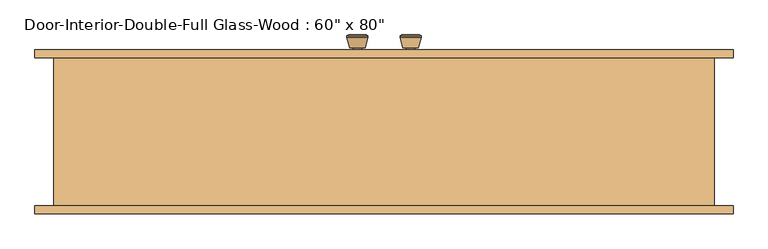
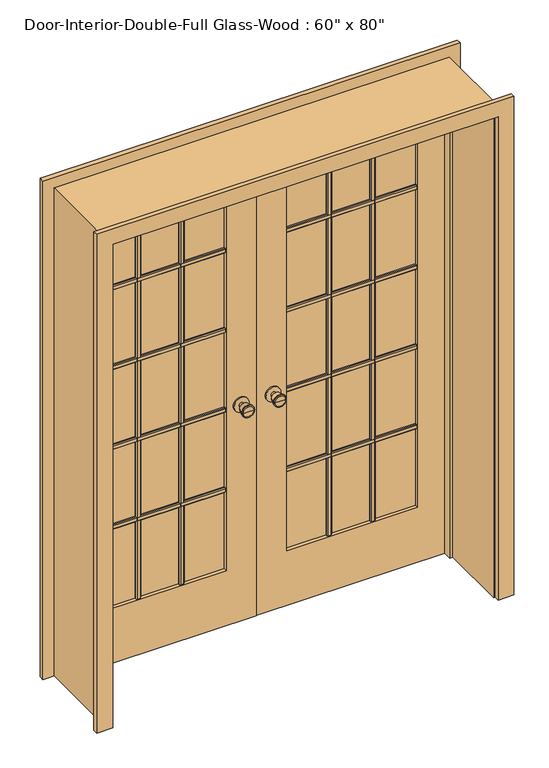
"""IFC4 building model written with IfcOpenShell, lengths in millimetres: door geometry."""

from ifc_helpers import new_model, si_unit, point, frame, frame_2d, origin, place, context, project, spatial, polyline, circle_curve, trimmed, segment, composite_curve, outline, extrude, faceted_brep, source, transform, mapped, element, save
from ifc_brep_helpers import plane_surface, cylinder_surface, revolved_surface, advanced_brep


def door_bfa3c7dc(model_context):
    return source(origin(), model_context, "Body", "SolidModel", [
        advanced_brep(
        [(-63.5, 179.0375, 914.4), (-73.5, 179.0375, 914.4), (-53.5, 179.0375, 914.4), (-83.9758676, 228.0375, 914.4), (-63.5, 228.0375, 914.4), (-43.0241324, 228.0375, 914.4), (-88.5, 226.2096319, 914.4), (-38.5, 226.2096319, 914.4), (-88.5, 222.7459537, 914.4), (-38.5, 222.7459537, 914.4), (-82.136236, 198.0375, 914.4), (-44.863764, 198.0375, 914.4), (-73.5, 198.0375, 914.4), (-53.5, 198.0375, 914.4)],
        [
            (0, 1),
            (1, 2, circle_curve(frame((-63.5, 179.0375, 914.4), z_axis=(0.0, -1.0, 0.0), x_axis=(1.0, 0.0, 0.0)), 10.0)),
            (2, 0),
            (2, 1, circle_curve(frame((-63.5, 179.0375, 914.4), z_axis=(0.0, -1.0, 0.0), x_axis=(1.0, 0.0, 0.0)), 10.0)),
            (3, 4),
            (4, 5),
            (5, 3, circle_curve(frame((-63.5, 228.0375, 914.4), z_axis=(0.0, 1.0, 0.0), x_axis=(1.0, 0.0, 0.0)), 20.4758676)),
            (3, 5, circle_curve(frame((-63.5, 228.0375, 914.4), z_axis=(0.0, 1.0, 0.0), x_axis=(1.0, 0.0, 0.0)), 20.4758676)),
            (6, 3),
            (5, 7),
            (7, 6, circle_curve(frame((-63.5, 226.2096319, 914.4), z_axis=(0.0, 1.0, 0.0), x_axis=(1.0, 0.0, 0.0)), 25.0)),
            (6, 7, circle_curve(frame((-63.5, 226.2096319, 914.4), z_axis=(0.0, 1.0, 0.0), x_axis=(1.0, 0.0, 0.0)), 25.0)),
            (8, 6),
            (7, 9),
            (9, 8, circle_curve(frame((-63.5, 222.7459537, 914.4), z_axis=(0.0, 1.0, 0.0), x_axis=(1.0, 0.0, 0.0)), 25.0)),
            (8, 9, circle_curve(frame((-63.5, 222.7459537, 914.4), z_axis=(0.0, 1.0, 0.0), x_axis=(1.0, 0.0, 0.0)), 25.0)),
            (10, 8),
            (9, 11),
            (11, 10, circle_curve(frame((-63.5, 198.0375, 914.4), z_axis=(0.0, 1.0, 0.0), x_axis=(1.0, 0.0, 0.0)), 18.636236)),
            (10, 11, circle_curve(frame((-63.5, 198.0375, 914.4), z_axis=(0.0, 1.0, 0.0), x_axis=(1.0, 0.0, 0.0)), 18.636236)),
            (12, 10),
            (11, 13),
            (13, 12, circle_curve(frame((-63.5, 198.0375, 914.4), z_axis=(0.0, 1.0, 0.0), x_axis=(1.0, 0.0, 0.0)), 10.0)),
            (12, 13, circle_curve(frame((-63.5, 198.0375, 914.4), z_axis=(0.0, 1.0, 0.0), x_axis=(1.0, 0.0, 0.0)), 10.0)),
            (1, 12),
            (13, 2),
        ],
        [
            plane_surface(frame((-63.5, 179.0375, 914.4), z_axis=(0.0, -1.0, 0.0), x_axis=(1.0, 0.0, 0.0))),
            plane_surface(frame((-63.5, 228.0375, 914.4), z_axis=(0.0, 1.0, 0.0), x_axis=(1.0, 0.0, 0.0))),
            revolved_surface(polyline([(-43.0241324, 228.0375, 914.4), (-38.5, 226.2096319, 914.4)]), (-63.5, 179.0375, 914.4), (0.0, -1.0, 0.0)),
            cylinder_surface(frame((-63.5, 179.0375, 914.4), z_axis=(0.0, -1.0, 0.0), x_axis=(1.0, 0.0, 0.0)), 25.0),
            revolved_surface(polyline([(-38.5, 222.7459537, 914.4), (-44.863764, 198.0375, 914.4)]), (-63.5, 179.0375, 914.4), (0.0, -1.0, 0.0)),
            plane_surface(frame((-63.5, 198.0375, 914.4), z_axis=(0.0, -1.0, 0.0), x_axis=(1.0, 0.0, 0.0))),
            cylinder_surface(frame((-63.5, 179.0375, 914.4), z_axis=(0.0, -1.0, 0.0), x_axis=(1.0, 0.0, 0.0)), 10.0),
        ],
        [
            (0, [[1, 2, 3]]),
            (0, [[-3, 4, -1]]),
            (1, [[5, 6, 7]]),
            (1, [[-6, -5, 8]]),
            (2, [[9, -7, 10, 11]]),
            (2, [[-10, -8, -9, 12]]),
            (3, [[13, -11, 14, 15]]),
            (3, [[-14, -12, -13, 16]]),
            (4, [[17, -15, 18, 19]]),
            (4, [[-18, -16, -17, 20]]),
            (5, [[21, -19, 22, 23]]),
            (5, [[-22, -20, -21, 24]]),
            (6, [[25, -23, 26, -2]]),
            (6, [[-26, -24, -25, -4]]),
        ],
    ),
        extrude(outline(composite_curve([segment(trimmed(circle_curve(frame_2d((914.4, -63.5)), 30.0), [point((914.4, -33.5))], [point((914.4, -93.5))], False, "CARTESIAN"), True, "CONTINUOUS"), segment(trimmed(circle_curve(frame_2d((914.4, -63.5)), 30.0), [point((914.4, -93.5))], [point((914.4, -33.5))], False, "CARTESIAN"), True, "CONTINUOUS")], self_intersect=False)), frame((0.0, 173.0375, 0.0), z_axis=(0.0, 1.0, 0.0), x_axis=(0.0, 0.0, 1.0)), (0.0, 0.0, 1.0), 6.0),
        advanced_brep(
        [(-63.5, 132.1125, 914.4), (-53.5, 132.1125, 914.4), (-73.5, 132.1125, 914.4), (-83.9758676, 83.1125, 914.4), (-43.0241324, 83.1125, 914.4), (-63.5, 83.1125, 914.4), (-88.5, 84.9403681, 914.4), (-38.5, 84.9403681, 914.4), (-88.5, 88.4040463, 914.4), (-38.5, 88.4040463, 914.4), (-82.136236, 113.1125, 914.4), (-44.863764, 113.1125, 914.4), (-73.5, 113.1125, 914.4), (-53.5, 113.1125, 914.4)],
        [
            (0, 1),
            (1, 2, circle_curve(frame((-63.5, 132.1125, 914.4), z_axis=(0.0, 1.0, 0.0), x_axis=(1.0, 0.0, 0.0)), 10.0)),
            (2, 0),
            (2, 1, circle_curve(frame((-63.5, 132.1125, 914.4), z_axis=(0.0, 1.0, 0.0), x_axis=(1.0, 0.0, 0.0)), 10.0)),
            (3, 4, circle_curve(frame((-63.5, 83.1125, 914.4), z_axis=(0.0, -1.0, 0.0), x_axis=(1.0, 0.0, 0.0)), 20.4758676)),
            (4, 5),
            (5, 3),
            (4, 3, circle_curve(frame((-63.5, 83.1125, 914.4), z_axis=(0.0, -1.0, 0.0), x_axis=(1.0, 0.0, 0.0)), 20.4758676)),
            (6, 7, circle_curve(frame((-63.5, 84.9403681, 914.4), z_axis=(0.0, -1.0, 0.0), x_axis=(1.0, 0.0, 0.0)), 25.0)),
            (7, 4),
            (3, 6),
            (7, 6, circle_curve(frame((-63.5, 84.9403681, 914.4), z_axis=(0.0, -1.0, 0.0), x_axis=(1.0, 0.0, 0.0)), 25.0)),
            (8, 9, circle_curve(frame((-63.5, 88.4040463, 914.4), z_axis=(0.0, -1.0, 0.0), x_axis=(1.0, 0.0, 0.0)), 25.0)),
            (9, 7),
            (6, 8),
            (9, 8, circle_curve(frame((-63.5, 88.4040463, 914.4), z_axis=(0.0, -1.0, 0.0), x_axis=(1.0, 0.0, 0.0)), 25.0)),
            (10, 11, circle_curve(frame((-63.5, 113.1125, 914.4), z_axis=(0.0, -1.0, 0.0), x_axis=(1.0, 0.0, 0.0)), 18.636236)),
            (11, 9),
            (8, 10),
            (11, 10, circle_curve(frame((-63.5, 113.1125, 914.4), z_axis=(0.0, -1.0, 0.0), x_axis=(1.0, 0.0, 0.0)), 18.636236)),
            (12, 13, circle_curve(frame((-63.5, 113.1125, 914.4), z_axis=(0.0, -1.0, 0.0), x_axis=(1.0, 0.0, 0.0)), 10.0)),
            (13, 11),
            (10, 12),
            (13, 12, circle_curve(frame((-63.5, 113.1125, 914.4), z_axis=(0.0, -1.0, 0.0), x_axis=(1.0, 0.0, 0.0)), 10.0)),
            (1, 13),
            (12, 2),
        ],
        [
            plane_surface(frame((-63.5, 132.1125, 914.4), z_axis=(0.0, 1.0, 0.0), x_axis=(1.0, 0.0, 0.0))),
            plane_surface(frame((-63.5, 83.1125, 914.4), z_axis=(0.0, -1.0, 0.0), x_axis=(1.0, 0.0, 0.0))),
            revolved_surface(polyline([(-43.0241324, 83.1125, 914.4), (-38.5, 84.9403681, 914.4)]), (-63.5, 132.1125, 914.4), (0.0, 1.0, 0.0)),
            cylinder_surface(frame((-63.5, 132.1125, 914.4), z_axis=(0.0, 1.0, 0.0), x_axis=(1.0, 0.0, 0.0)), 25.0),
            revolved_surface(polyline([(-38.5, 88.4040463, 914.4), (-44.863764, 113.1125, 914.4)]), (-63.5, 132.1125, 914.4), (0.0, 1.0, 0.0)),
            plane_surface(frame((-63.5, 113.1125, 914.4), z_axis=(0.0, 1.0, 0.0), x_axis=(1.0, 0.0, 0.0))),
            cylinder_surface(frame((-63.5, 132.1125, 914.4), z_axis=(0.0, 1.0, 0.0), x_axis=(1.0, 0.0, 0.0)), 10.0),
        ],
        [
            (0, [[1, 2, 3]]),
            (0, [[-3, 4, -1]]),
            (1, [[5, 6, 7]]),
            (1, [[8, -7, -6]]),
            (2, [[9, 10, -5, 11]]),
            (2, [[12, -11, -8, -10]]),
            (3, [[13, 14, -9, 15]]),
            (3, [[16, -15, -12, -14]]),
            (4, [[17, 18, -13, 19]]),
            (4, [[20, -19, -16, -18]]),
            (5, [[21, 22, -17, 23]]),
            (5, [[24, -23, -20, -22]]),
            (6, [[-2, 25, -21, 26]]),
            (6, [[-4, -26, -24, -25]]),
        ],
    ),
        extrude(outline(composite_curve([segment(trimmed(circle_curve(frame_2d((914.4, -63.5)), 30.0), [point((914.4, -33.5))], [point((914.4, -93.5))], False, "CARTESIAN"), True, "CONTINUOUS"), segment(trimmed(circle_curve(frame_2d((914.4, -63.5)), 30.0), [point((914.4, -93.5))], [point((914.4, -33.5))], False, "CARTESIAN"), True, "CONTINUOUS")], self_intersect=False)), frame((0.0, 132.1125, 0.0), z_axis=(0.0, 1.0, 0.0), x_axis=(0.0, 0.0, 1.0)), (0.0, 0.0, 1.0), 6.0),
        extrude(outline(polyline([(152.0825, 1586.23), (152.0825, 1567.18), (145.7325, 1567.18), (142.5575, 1570.355), (142.5575, 1583.055), (145.7325, 1586.23), (152.0825, 1586.23)])), frame((120.65, 0.0, 0.0), z_axis=(1.0, 0.0, 0.0), x_axis=(0.0, 1.0, 0.0)), (0.0, 0.0, 1.0), 520.7),
        extrude(outline(polyline([(152.0825, 1249.9975), (152.0825, 1230.9475), (145.7325, 1230.9475), (142.5575, 1234.1225), (142.5575, 1246.8225), (145.7325, 1249.9975), (152.0825, 1249.9975)])), frame((120.65, 0.0, 0.0), z_axis=(1.0, 0.0, 0.0), x_axis=(0.0, 1.0, 0.0)), (0.0, 0.0, 1.0), 520.7),
        extrude(outline(polyline([(152.0825, 913.765), (152.0825, 894.715), (145.7325, 894.715), (142.5575, 897.89), (142.5575, 910.59), (145.7325, 913.765), (152.0825, 913.765)])), frame((120.65, 0.0, 0.0), z_axis=(1.0, 0.0, 0.0), x_axis=(0.0, 1.0, 0.0)), (0.0, 0.0, 1.0), 520.7),
        extrude(outline(polyline([(152.0825, 577.5325), (152.0825, 558.4825), (145.7325, 558.4825), (142.5575, 561.6575), (142.5575, 574.3575), (145.7325, 577.5325), (152.0825, 577.5325)])), frame((120.65, 0.0, 0.0), z_axis=(1.0, 0.0, 0.0), x_axis=(0.0, 1.0, 0.0)), (0.0, 0.0, 1.0), 520.7),
        extrude(outline(polyline([(458.2583333, 152.0825), (477.3083333, 152.0825), (477.3083333, 145.7325), (474.1333333, 142.5575), (461.4333333, 142.5575), (458.2583333, 145.7325), (458.2583333, 152.0825)])), frame((0.0, 0.0, 231.775), z_axis=(0.0, 0.0, 1.0), x_axis=(1.0, 0.0, 0.0)), (0.0, 0.0, 1.0), 1681.1625),
        extrude(outline(polyline([(284.6916667, 152.0825), (303.7416667, 152.0825), (303.7416667, 145.7325), (300.5666667, 142.5575), (287.8666667, 142.5575), (284.6916667, 145.7325), (284.6916667, 152.0825)])), frame((0.0, 0.0, 231.775), z_axis=(0.0, 0.0, 1.0), x_axis=(1.0, 0.0, 0.0)), (0.0, 0.0, 1.0), 1681.1625),
        extrude(outline(polyline([(159.0675, 1586.23), (165.4175, 1586.23), (168.5925, 1583.055), (168.5925, 1570.355), (165.4175, 1567.18), (159.0675, 1567.18), (159.0675, 1586.23)])), frame((-641.35, 0.0, 0.0), z_axis=(1.0, 0.0, 0.0), x_axis=(0.0, 1.0, 0.0)), (0.0, 0.0, 1.0), 520.7),
        extrude(outline(polyline([(159.0675, 1249.9975), (165.4175, 1249.9975), (168.5925, 1246.8225), (168.5925, 1234.1225), (165.4175, 1230.9475), (159.0675, 1230.9475), (159.0675, 1249.9975)])), frame((-641.35, 0.0, 0.0), z_axis=(1.0, 0.0, 0.0), x_axis=(0.0, 1.0, 0.0)), (0.0, 0.0, 1.0), 520.7),
        extrude(outline(polyline([(159.0675, 913.765), (165.4175, 913.765), (168.5925, 910.59), (168.5925, 897.89), (165.4175, 894.715), (159.0675, 894.715), (159.0675, 913.765)])), frame((-641.35, 0.0, 0.0), z_axis=(1.0, 0.0, 0.0), x_axis=(0.0, 1.0, 0.0)), (0.0, 0.0, 1.0), 520.7),
        extrude(outline(polyline([(159.0675, 577.5325), (165.4175, 577.5325), (168.5925, 574.3575), (168.5925, 561.6575), (165.4175, 558.4825), (159.0675, 558.4825), (159.0675, 577.5325)])), frame((-641.35, 0.0, 0.0), z_axis=(1.0, 0.0, 0.0), x_axis=(0.0, 1.0, 0.0)), (0.0, 0.0, 1.0), 520.7),
        extrude(outline(polyline([(-303.7416667, 159.0675), (-303.7416667, 165.4175), (-300.5666667, 168.5925), (-287.8666667, 168.5925), (-284.6916667, 165.4175), (-284.6916667, 159.0675), (-303.7416667, 159.0675)])), frame((0.0, 0.0, 231.775), z_axis=(0.0, 0.0, 1.0), x_axis=(1.0, 0.0, 0.0)), (0.0, 0.0, 1.0), 1681.1625),
        extrude(outline(polyline([(-477.3083333, 159.0675), (-477.3083333, 165.4175), (-474.1333333, 168.5925), (-461.4333333, 168.5925), (-458.2583333, 165.4175), (-458.2583333, 159.0675), (-477.3083333, 159.0675)])), frame((0.0, 0.0, 231.775), z_axis=(0.0, 0.0, 1.0), x_axis=(1.0, 0.0, 0.0)), (0.0, 0.0, 1.0), 1681.1625),
        extrude(outline(polyline([(159.0675, 1586.23), (165.4175, 1586.23), (168.5925, 1583.055), (168.5925, 1570.355), (165.4175, 1567.18), (159.0675, 1567.18), (159.0675, 1586.23)])), frame((120.65, 0.0, 0.0), z_axis=(1.0, 0.0, 0.0), x_axis=(0.0, 1.0, 0.0)), (0.0, 0.0, 1.0), 520.7),
        extrude(outline(polyline([(159.0675, 1249.9975), (165.4175, 1249.9975), (168.5925, 1246.8225), (168.5925, 1234.1225), (165.4175, 1230.9475), (159.0675, 1230.9475), (159.0675, 1249.9975)])), frame((120.65, 0.0, 0.0), z_axis=(1.0, 0.0, 0.0), x_axis=(0.0, 1.0, 0.0)), (0.0, 0.0, 1.0), 520.7),
        extrude(outline(polyline([(159.0675, 913.765), (165.4175, 913.765), (168.5925, 910.59), (168.5925, 897.89), (165.4175, 894.715), (159.0675, 894.715), (159.0675, 913.765)])), frame((120.65, 0.0, 0.0), z_axis=(1.0, 0.0, 0.0), x_axis=(0.0, 1.0, 0.0)), (0.0, 0.0, 1.0), 520.7),
        extrude(outline(polyline([(159.0675, 577.5325), (165.4175, 577.5325), (168.5925, 574.3575), (168.5925, 561.6575), (165.4175, 558.4825), (159.0675, 558.4825), (159.0675, 577.5325)])), frame((120.65, 0.0, 0.0), z_axis=(1.0, 0.0, 0.0), x_axis=(0.0, 1.0, 0.0)), (0.0, 0.0, 1.0), 520.7),
        extrude(outline(polyline([(458.2583333, 159.0675), (458.2583333, 165.4175), (461.4333333, 168.5925), (474.1333333, 168.5925), (477.3083333, 165.4175), (477.3083333, 159.0675), (458.2583333, 159.0675)])), frame((0.0, 0.0, 231.775), z_axis=(0.0, 0.0, 1.0), x_axis=(1.0, 0.0, 0.0)), (0.0, 0.0, 1.0), 1681.1625),
        extrude(outline(polyline([(284.6916667, 159.0675), (284.6916667, 165.4175), (287.8666667, 168.5925), (300.5666667, 168.5925), (303.7416667, 165.4175), (303.7416667, 159.0675), (284.6916667, 159.0675)])), frame((0.0, 0.0, 231.775), z_axis=(0.0, 0.0, 1.0), x_axis=(1.0, 0.0, 0.0)), (0.0, 0.0, 1.0), 1681.1625),
        extrude(outline(polyline([(152.0825, 1586.23), (152.0825, 1567.18), (145.7325, 1567.18), (142.5575, 1570.355), (142.5575, 1583.055), (145.7325, 1586.23), (152.0825, 1586.23)])), frame((-641.35, 0.0, 0.0), z_axis=(1.0, 0.0, 0.0), x_axis=(0.0, 1.0, 0.0)), (0.0, 0.0, 1.0), 520.7),
        extrude(outline(polyline([(152.0825, 1249.9975), (152.0825, 1230.9475), (145.7325, 1230.9475), (142.5575, 1234.1225), (142.5575, 1246.8225), (145.7325, 1249.9975), (152.0825, 1249.9975)])), frame((-641.35, 0.0, 0.0), z_axis=(1.0, 0.0, 0.0), x_axis=(0.0, 1.0, 0.0)), (0.0, 0.0, 1.0), 520.7),
        extrude(outline(polyline([(152.0825, 913.765), (152.0825, 894.715), (145.7325, 894.715), (142.5575, 897.89), (142.5575, 910.59), (145.7325, 913.765), (152.0825, 913.765)])), frame((-641.35, 0.0, 0.0), z_axis=(1.0, 0.0, 0.0), x_axis=(0.0, 1.0, 0.0)), (0.0, 0.0, 1.0), 520.7),
        extrude(outline(polyline([(152.0825, 577.5325), (152.0825, 558.4825), (145.7325, 558.4825), (142.5575, 561.6575), (142.5575, 574.3575), (145.7325, 577.5325), (152.0825, 577.5325)])), frame((-641.35, 0.0, 0.0), z_axis=(1.0, 0.0, 0.0), x_axis=(0.0, 1.0, 0.0)), (0.0, 0.0, 1.0), 520.7),
        extrude(outline(polyline([(-303.7416667, 152.0825), (-284.6916667, 152.0825), (-284.6916667, 145.7325), (-287.8666667, 142.5575), (-300.5666667, 142.5575), (-303.7416667, 145.7325), (-303.7416667, 152.0825)])), frame((0.0, 0.0, 231.775), z_axis=(0.0, 0.0, 1.0), x_axis=(1.0, 0.0, 0.0)), (0.0, 0.0, 1.0), 1681.1625),
        extrude(outline(polyline([(-477.3083333, 152.0825), (-458.2583333, 152.0825), (-458.2583333, 145.7325), (-461.4333333, 142.5575), (-474.1333333, 142.5575), (-477.3083333, 145.7325), (-477.3083333, 152.0825)])), frame((0.0, 0.0, 231.775), z_axis=(0.0, 0.0, 1.0), x_axis=(1.0, 0.0, 0.0)), (0.0, 0.0, 1.0), 1681.1625),
        advanced_brep(
        [(63.5, 132.1125, 914.4), (73.5, 132.1125, 914.4), (53.5, 132.1125, 914.4), (83.9758676, 83.1125, 914.4), (63.5, 83.1125, 914.4), (43.0241324, 83.1125, 914.4), (88.5, 84.9403681, 914.4), (38.5, 84.9403681, 914.4), (88.5, 88.4040463, 914.4), (38.5, 88.4040463, 914.4), (82.136236, 113.1125, 914.4), (44.863764, 113.1125, 914.4), (73.5, 113.1125, 914.4), (53.5, 113.1125, 914.4)],
        [
            (0, 1),
            (1, 2, circle_curve(frame((63.5, 132.1125, 914.4), z_axis=(0.0, 1.0, 0.0), x_axis=(-1.0, 0.0, 0.0)), 10.0)),
            (2, 0),
            (2, 1, circle_curve(frame((63.5, 132.1125, 914.4), z_axis=(0.0, 1.0, 0.0), x_axis=(-1.0, 0.0, 0.0)), 10.0)),
            (3, 4),
            (4, 5),
            (5, 3, circle_curve(frame((63.5, 83.1125, 914.4), z_axis=(0.0, -1.0, 0.0), x_axis=(-1.0, 0.0, 0.0)), 20.4758676)),
            (3, 5, circle_curve(frame((63.5, 83.1125, 914.4), z_axis=(0.0, -1.0, 0.0), x_axis=(-1.0, 0.0, 0.0)), 20.4758676)),
            (6, 3),
            (5, 7),
            (7, 6, circle_curve(frame((63.5, 84.9403681, 914.4), z_axis=(0.0, -1.0, 0.0), x_axis=(-1.0, 0.0, 0.0)), 25.0)),
            (6, 7, circle_curve(frame((63.5, 84.9403681, 914.4), z_axis=(0.0, -1.0, 0.0), x_axis=(-1.0, 0.0, 0.0)), 25.0)),
            (8, 6),
            (7, 9),
            (9, 8, circle_curve(frame((63.5, 88.4040463, 914.4), z_axis=(0.0, -1.0, 0.0), x_axis=(-1.0, 0.0, 0.0)), 25.0)),
            (8, 9, circle_curve(frame((63.5, 88.4040463, 914.4), z_axis=(0.0, -1.0, 0.0), x_axis=(-1.0, 0.0, 0.0)), 25.0)),
            (10, 8),
            (9, 11),
            (11, 10, circle_curve(frame((63.5, 113.1125, 914.4), z_axis=(0.0, -1.0, 0.0), x_axis=(-1.0, 0.0, 0.0)), 18.636236)),
            (10, 11, circle_curve(frame((63.5, 113.1125, 914.4), z_axis=(0.0, -1.0, 0.0), x_axis=(-1.0, 0.0, 0.0)), 18.636236)),
            (12, 10),
            (11, 13),
            (13, 12, circle_curve(frame((63.5, 113.1125, 914.4), z_axis=(0.0, -1.0, 0.0), x_axis=(-1.0, 0.0, 0.0)), 10.0)),
            (12, 13, circle_curve(frame((63.5, 113.1125, 914.4), z_axis=(0.0, -1.0, 0.0), x_axis=(-1.0, 0.0, 0.0)), 10.0)),
            (1, 12),
            (13, 2),
        ],
        [
            plane_surface(frame((63.5, 132.1125, 914.4), z_axis=(0.0, 1.0, 0.0), x_axis=(-1.0, 0.0, 0.0))),
            plane_surface(frame((63.5, 83.1125, 914.4), z_axis=(0.0, -1.0, 0.0), x_axis=(-1.0, 0.0, 0.0))),
            revolved_surface(polyline([(43.0241324, 83.1125, 914.4), (38.5, 84.9403681, 914.4)]), (63.5, 132.1125, 914.4), (0.0, 1.0, 0.0)),
            cylinder_surface(frame((63.5, 132.1125, 914.4), z_axis=(0.0, 1.0, 0.0), x_axis=(-1.0, 0.0, 0.0)), 25.0),
            revolved_surface(polyline([(38.5, 88.4040463, 914.4), (44.863764, 113.1125, 914.4)]), (63.5, 132.1125, 914.4), (0.0, 1.0, 0.0)),
            plane_surface(frame((63.5, 113.1125, 914.4), z_axis=(0.0, 1.0, 0.0), x_axis=(-1.0, 0.0, 0.0))),
            cylinder_surface(frame((63.5, 132.1125, 914.4), z_axis=(0.0, 1.0, 0.0), x_axis=(-1.0, 0.0, 0.0)), 10.0),
        ],
        [
            (0, [[1, 2, 3]]),
            (0, [[-3, 4, -1]]),
            (1, [[5, 6, 7]]),
            (1, [[-6, -5, 8]]),
            (2, [[9, -7, 10, 11]]),
            (2, [[-10, -8, -9, 12]]),
            (3, [[13, -11, 14, 15]]),
            (3, [[-14, -12, -13, 16]]),
            (4, [[17, -15, 18, 19]]),
            (4, [[-18, -16, -17, 20]]),
            (5, [[21, -19, 22, 23]]),
            (5, [[-22, -20, -21, 24]]),
            (6, [[25, -23, 26, -2]]),
            (6, [[-26, -24, -25, -4]]),
        ],
    ),
        extrude(outline(composite_curve([segment(trimmed(circle_curve(frame_2d((914.4, 63.5)), 30.0), [point((914.4, 33.5))], [point((914.4, 93.5))], False, "CARTESIAN"), True, "CONTINUOUS"), segment(trimmed(circle_curve(frame_2d((914.4, 63.5)), 30.0), [point((914.4, 93.5))], [point((914.4, 33.5))], False, "CARTESIAN"), True, "CONTINUOUS")], self_intersect=False)), frame((0.0, 132.1125, 0.0), z_axis=(0.0, 1.0, 0.0), x_axis=(0.0, 0.0, 1.0)), (0.0, 0.0, 1.0), 6.0),
        advanced_brep(
        [(63.5, 179.0375, 914.4), (53.5, 179.0375, 914.4), (73.5, 179.0375, 914.4), (83.9758676, 228.0375, 914.4), (43.0241324, 228.0375, 914.4), (63.5, 228.0375, 914.4), (88.5, 226.2096319, 914.4), (38.5, 226.2096319, 914.4), (88.5, 222.7459537, 914.4), (38.5, 222.7459537, 914.4), (82.136236, 198.0375, 914.4), (44.863764, 198.0375, 914.4), (73.5, 198.0375, 914.4), (53.5, 198.0375, 914.4)],
        [
            (0, 1),
            (1, 2, circle_curve(frame((63.5, 179.0375, 914.4), z_axis=(0.0, -1.0, 0.0), x_axis=(-1.0, 0.0, 0.0)), 10.0)),
            (2, 0),
            (2, 1, circle_curve(frame((63.5, 179.0375, 914.4), z_axis=(0.0, -1.0, 0.0), x_axis=(-1.0, 0.0, 0.0)), 10.0)),
            (3, 4, circle_curve(frame((63.5, 228.0375, 914.4), z_axis=(0.0, 1.0, 0.0), x_axis=(-1.0, 0.0, 0.0)), 20.4758676)),
            (4, 5),
            (5, 3),
            (4, 3, circle_curve(frame((63.5, 228.0375, 914.4), z_axis=(0.0, 1.0, 0.0), x_axis=(-1.0, 0.0, 0.0)), 20.4758676)),
            (6, 7, circle_curve(frame((63.5, 226.2096319, 914.4), z_axis=(0.0, 1.0, 0.0), x_axis=(-1.0, 0.0, 0.0)), 25.0)),
            (7, 4),
            (3, 6),
            (7, 6, circle_curve(frame((63.5, 226.2096319, 914.4), z_axis=(0.0, 1.0, 0.0), x_axis=(-1.0, 0.0, 0.0)), 25.0)),
            (8, 9, circle_curve(frame((63.5, 222.7459537, 914.4), z_axis=(0.0, 1.0, 0.0), x_axis=(-1.0, 0.0, 0.0)), 25.0)),
            (9, 7),
            (6, 8),
            (9, 8, circle_curve(frame((63.5, 222.7459537, 914.4), z_axis=(0.0, 1.0, 0.0), x_axis=(-1.0, 0.0, 0.0)), 25.0)),
            (10, 11, circle_curve(frame((63.5, 198.0375, 914.4), z_axis=(0.0, 1.0, 0.0), x_axis=(-1.0, 0.0, 0.0)), 18.636236)),
            (11, 9),
            (8, 10),
            (11, 10, circle_curve(frame((63.5, 198.0375, 914.4), z_axis=(0.0, 1.0, 0.0), x_axis=(-1.0, 0.0, 0.0)), 18.636236)),
            (12, 13, circle_curve(frame((63.5, 198.0375, 914.4), z_axis=(0.0, 1.0, 0.0), x_axis=(-1.0, 0.0, 0.0)), 10.0)),
            (13, 11),
            (10, 12),
            (13, 12, circle_curve(frame((63.5, 198.0375, 914.4), z_axis=(0.0, 1.0, 0.0), x_axis=(-1.0, 0.0, 0.0)), 10.0)),
            (1, 13),
            (12, 2),
        ],
        [
            plane_surface(frame((63.5, 179.0375, 914.4), z_axis=(0.0, -1.0, 0.0), x_axis=(-1.0, 0.0, 0.0))),
            plane_surface(frame((63.5, 228.0375, 914.4), z_axis=(0.0, 1.0, 0.0), x_axis=(-1.0, 0.0, 0.0))),
            revolved_surface(polyline([(43.0241324, 228.0375, 914.4), (38.5, 226.2096319, 914.4)]), (63.5, 179.0375, 914.4), (0.0, -1.0, 0.0)),
            cylinder_surface(frame((63.5, 179.0375, 914.4), z_axis=(0.0, -1.0, 0.0), x_axis=(-1.0, 0.0, 0.0)), 25.0),
            revolved_surface(polyline([(38.5, 222.7459537, 914.4), (44.863764, 198.0375, 914.4)]), (63.5, 179.0375, 914.4), (0.0, -1.0, 0.0)),
            plane_surface(frame((63.5, 198.0375, 914.4), z_axis=(0.0, -1.0, 0.0), x_axis=(-1.0, 0.0, 0.0))),
            cylinder_surface(frame((63.5, 179.0375, 914.4), z_axis=(0.0, -1.0, 0.0), x_axis=(-1.0, 0.0, 0.0)), 10.0),
        ],
        [
            (0, [[1, 2, 3]]),
            (0, [[-3, 4, -1]]),
            (1, [[5, 6, 7]]),
            (1, [[8, -7, -6]]),
            (2, [[9, 10, -5, 11]]),
            (2, [[12, -11, -8, -10]]),
            (3, [[13, 14, -9, 15]]),
            (3, [[16, -15, -12, -14]]),
            (4, [[17, 18, -13, 19]]),
            (4, [[20, -19, -16, -18]]),
            (5, [[21, 22, -17, 23]]),
            (5, [[24, -23, -20, -22]]),
            (6, [[-2, 25, -21, 26]]),
            (6, [[-4, -26, -24, -25]]),
        ],
    ),
        extrude(outline(composite_curve([segment(trimmed(circle_curve(frame_2d((914.4, 63.5)), 30.0), [point((914.4, 33.5))], [point((914.4, 93.5))], False, "CARTESIAN"), True, "CONTINUOUS"), segment(trimmed(circle_curve(frame_2d((914.4, 63.5)), 30.0), [point((914.4, 93.5))], [point((914.4, 33.5))], False, "CARTESIAN"), True, "CONTINUOUS")], self_intersect=False)), frame((0.0, 173.0375, 0.0), z_axis=(0.0, 1.0, 0.0), x_axis=(0.0, 0.0, 1.0)), (0.0, 0.0, 1.0), 6.0),
        extrude(outline(polyline([(0.0, 768.35), (0.0, 831.85), (2101.85, 831.85), (2101.85, -831.85), (0.0, -831.85), (0.0, -768.35), (2038.35, -768.35), (2038.35, 768.35), (0.0, 768.35)])), frame((0.0, 173.0375, 0.0), z_axis=(0.0, 1.0, 0.0), x_axis=(0.0, 0.0, 1.0)), (0.0, 0.0, 1.0), 19.05),
        extrude(outline(polyline([(0.0, 768.35), (0.0, 831.85), (2101.85, 831.85), (2101.85, -831.85), (0.0, -831.85), (0.0, -768.35), (2038.35, -768.35), (2038.35, 768.35), (0.0, 768.35)])), frame((0.0, -198.4375, 0.0), z_axis=(0.0, 1.0, 0.0), x_axis=(0.0, 0.0, 1.0)), (0.0, 0.0, 1.0), 19.05),
        extrude(outline(polyline([(2032.0, -762.0), (0.0, -762.0), (0.0, -1.6019111), (2032.0, -1.6019111), (2032.0, -762.0)]), holes=[polyline([(231.775, -641.35), (1912.9375, -641.35), (1912.9375, -120.65), (231.775, -120.65), (231.775, -641.35)])]), frame((0.0, 138.1125, 0.0), z_axis=(0.0, 1.0, 0.0), x_axis=(0.0, 0.0, 1.0)), (0.0, 0.0, 1.0), 34.925),
        extrude(outline(polyline([(0.0, 762.0), (2032.0, 762.0), (2032.0, 1.5875), (0.0, 1.5875), (0.0, 762.0)]), holes=[polyline([(1912.9375, 120.65), (1912.9375, 641.35), (231.775, 641.35), (231.775, 120.65), (1912.9375, 120.65)])]), frame((0.0, 138.1125, 0.0), z_axis=(0.0, 1.0, 0.0), x_axis=(0.0, 0.0, 1.0)), (0.0, 0.0, 1.0), 34.925),
        faceted_brep([(787.4, 173.0375, 0.0), (787.4, -179.3875, 0.0), (762.0, -179.3875, 0.0), (762.0, 103.1875, 0.0), (749.3, 103.1875, 0.0), (749.3, 138.1125, 0.0), (762.0, 138.1125, 0.0), (762.0, 173.0375, 0.0), (787.4, 173.0375, 2057.4), (787.4, -179.3875, 2057.4), (-787.4, -179.3875, 2057.4), (-787.4, -179.3875, 0.0), (-762.0, -179.3875, 0.0), (-762.0, -179.3875, 2032.0), (762.0, -179.3875, 2032.0), (762.0, 103.1875, 2032.0), (-762.0, 103.1875, 2032.0), (-762.0, 103.1875, 0.0), (-749.3, 103.1875, 0.0), (-749.3, 103.1875, 2019.3), (749.3, 103.1875, 2019.3), (749.3, 138.1125, 2019.3), (1.5875, 138.1125, 2019.3), (-1.6019111, 138.1125, 2019.3), (-749.3, 138.1125, 2019.3), (-749.3, 138.1125, 0.0), (-762.0, 138.1125, 0.0), (-762.0, 138.1125, 2032.0), (-1.6019111, 138.1125, 2032.0), (1.5875, 138.1125, 2032.0), (762.0, 138.1125, 2032.0), (762.0, 173.0375, 2032.0), (1.5875, 173.0375, 2032.0), (-1.6019111, 173.0375, 2032.0), (-762.0, 173.0375, 2032.0), (-762.0, 173.0375, 0.0), (-787.4, 173.0375, 0.0), (-787.4, 173.0375, 2057.4)], [[[0, 1, 2, 3, 4, 5, 6, 7]], [[1, 0, 8, 9]], [[2, 1, 9, 10, 11, 12, 13, 14]], [[3, 2, 14, 15]], [[4, 3, 15, 16, 17, 18, 19, 20]], [[5, 4, 20, 21]], [[6, 5, 21, 22, 23, 24, 25, 26, 27, 28, 29, 30]], [[7, 6, 30, 31]], [[0, 7, 31, 32, 33, 34, 35, 36, 37, 8]], [[9, 8, 37, 10]], [[14, 13, 16, 15]], [[20, 19, 24, 23, 22, 21]], [[31, 30, 29, 28, 27, 34, 33, 32]], [[12, 11, 36, 35, 26, 25, 18, 17]], [[11, 10, 37, 36]], [[13, 12, 17, 16]], [[19, 18, 25, 24]], [[27, 26, 35, 34]]]),
        extrude(outline(polyline([(641.35, 152.0825), (120.65, 152.0825), (120.65, 159.0675), (641.35, 159.0675), (641.35, 152.0825)])), frame((0.0, 0.0, 231.775), z_axis=(0.0, 0.0, 1.0), x_axis=(1.0, 0.0, 0.0)), (0.0, 0.0, 1.0), 1681.1625),
        extrude(outline(polyline([(-120.65, 152.0825), (-641.35, 152.0825), (-641.35, 159.0675), (-120.65, 159.0675), (-120.65, 152.0825)])), frame((0.0, 0.0, 231.775), z_axis=(0.0, 0.0, 1.0), x_axis=(1.0, 0.0, 0.0)), (0.0, 0.0, 1.0), 1681.1625),
    ])


if __name__ == "__main__":
    model = new_model("IFC4")
    model_context = context("Model", 3, world=origin())
    ifc_project = project(units=[si_unit("LENGTHUNIT", "METRE", prefix="MILLI")], contexts=[model_context])
    site = spatial("IfcSite", under=ifc_project)
    building = spatial("IfcBuilding", under=site)
    placement = place(None, origin())
    door_shape = door_bfa3c7dc(model_context)
    element("IfcDoor", 1, ObjectType="Door-Interior-Double-Full Glass-Wood : 60\" x 80\"", at=placement, inside=building, context=model_context, shape_type="MappedRepresentation", body=[
        mapped(door_shape, transform((0.0, 0.0, 0.0), x_axis=(1.0, 0.0, 0.0), y_axis=(0.0, 1.0, 0.0), z_axis=(0.0, 0.0, 1.0))),
    ])
    save(model, "model.ifc")
